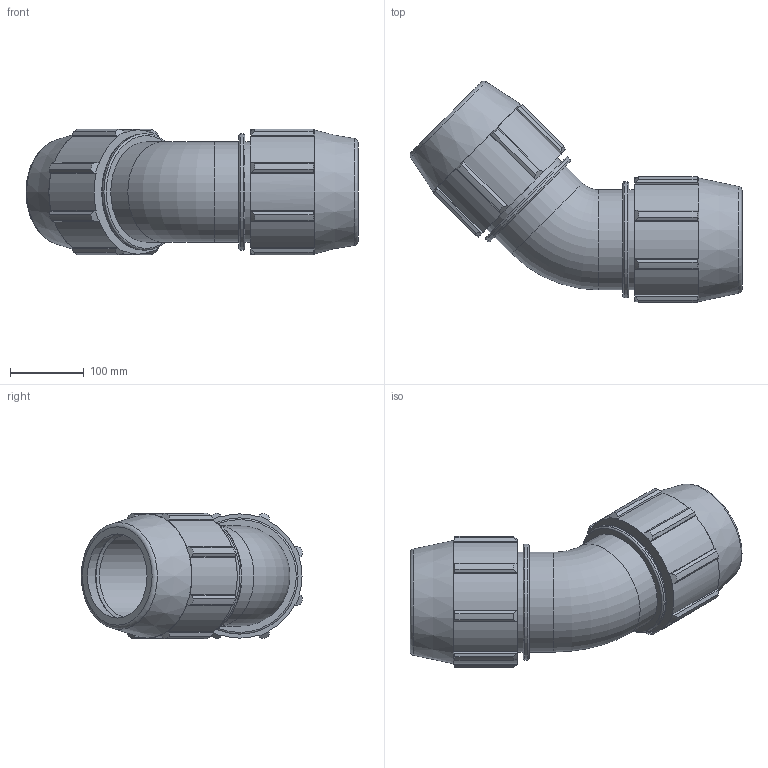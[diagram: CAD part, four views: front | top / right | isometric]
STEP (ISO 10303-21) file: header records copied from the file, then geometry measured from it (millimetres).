
FILE_DESCRIPTION(/* description */ ('PLASSON 45° ELBOW 4'''' - 4'''''),/* implementation_level */ '2;1');
FILE_NAME(/* name */ 'C:\Dropbox\KIMPROJECTS-Inventor 2019\99-16-3568-Processing Inch\ASTM Compression 2021\0706M0\0706M0040.ipt.stp',/* time_stamp */ '2021-08-26T12:32:19+03:00',/* author */ ('KIM'),/* organization */ (''),/* preprocessor_version */ 'ST-DEVELOPER v17.2',/* originating_system */ 'Autodesk Inventor 2019',/* authorisation */ '');
FILE_SCHEMA (('AUTOMOTIVE_DESIGN { 1 0 10303 214 3 1 1 }'));
Length unit declared in the file: inch
Products named in the file (1): 0706M0040
Bounding box: 449.9 x 300.15 x 170.4 mm (x, y, z)
Volume: 4012808.7 mm3; surface area: 453917 mm2
Topology: 1 solids, 1 shells, 146 faces, 431 edges, 295 vertices
Faces by surface type: plane 74, cylinder 40, cone 24, torus 8
Full cylindrical faces by diameter (mm): 114.1 x2, 135.827 x4, 157.559 x2
Entity records: 5103 total; most frequent: CARTESIAN_POINT 1001, ORIENTED_EDGE 862, DIRECTION 820, EDGE_CURVE 431, AXIS2_PLACEMENT_3D 306, VERTEX_POINT 295, LINE 208, VECTOR 208
